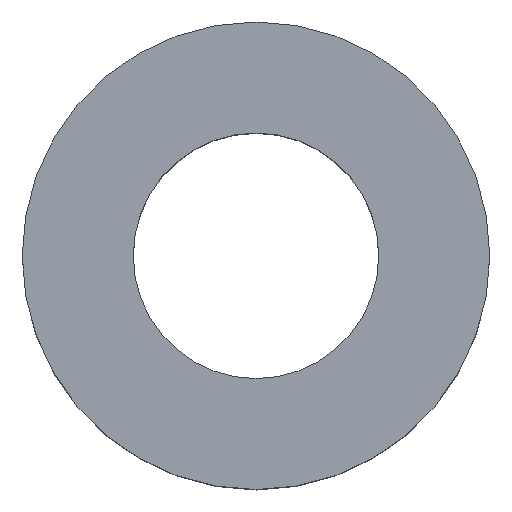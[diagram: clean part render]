
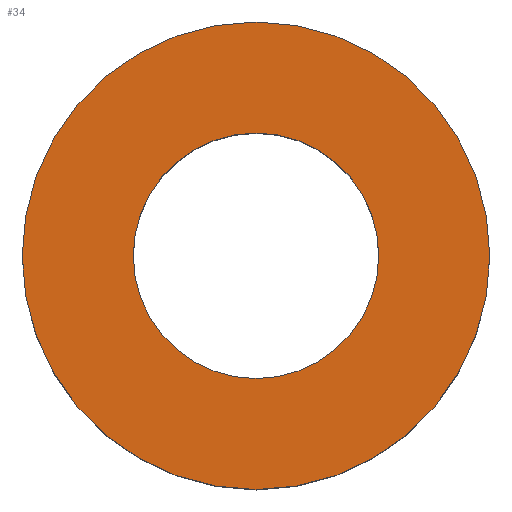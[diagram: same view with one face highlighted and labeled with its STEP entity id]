
A CAD part, top view. The second image highlights one B-rep face of the part: STEP entity #34.
In plain terms, the highlighted planar face has unit normal (0, 0, 1).
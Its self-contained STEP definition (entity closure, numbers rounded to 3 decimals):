
#34 = ADVANCED_FACE( '', ( #65, #66 ), #67, .F. );
#65 = FACE_BOUND( '', #88, .T. );
#66 = FACE_OUTER_BOUND( '', #89, .T. );
#67 = PLANE( '', #90 );
#88 = EDGE_LOOP( '', ( #111 ) );
#89 = EDGE_LOOP( '', ( #112 ) );
#90 = AXIS2_PLACEMENT_3D( '', #113, #114, #115 );
#111 = ORIENTED_EDGE( '', *, *, #117, .T. );
#112 = ORIENTED_EDGE( '', *, *, #122, .F. );
#113 = CARTESIAN_POINT( '', ( 0., 0., 10. ) );
#114 = DIRECTION( '', ( 0., 0., -1. ) );
#115 = DIRECTION( '', ( -1., 0., 0. ) );
#117 = EDGE_CURVE( '', #125, #125, #126, .T. );
#122 = EDGE_CURVE( '', #133, #133, #134, .T. );
#125 = VERTEX_POINT( '', #137 );
#126 = CIRCLE( '', #138, 5.25 );
#133 = VERTEX_POINT( '', #145 );
#134 = CIRCLE( '', #146, 10. );
#137 = CARTESIAN_POINT( '', ( 5.25, 0., 10. ) );
#138 = AXIS2_PLACEMENT_3D( '', #148, #149, #150 );
#145 = CARTESIAN_POINT( '', ( 10., 0., 10. ) );
#146 = AXIS2_PLACEMENT_3D( '', #157, #158, #159 );
#148 = CARTESIAN_POINT( '', ( 0., 0., 10. ) );
#149 = DIRECTION( '', ( 0., 0., -1. ) );
#150 = DIRECTION( '', ( 1., 0., 0. ) );
#157 = CARTESIAN_POINT( '', ( 0., 0., 10. ) );
#158 = DIRECTION( '', ( 0., 0., -1. ) );
#159 = DIRECTION( '', ( 1., 0., 0. ) );
